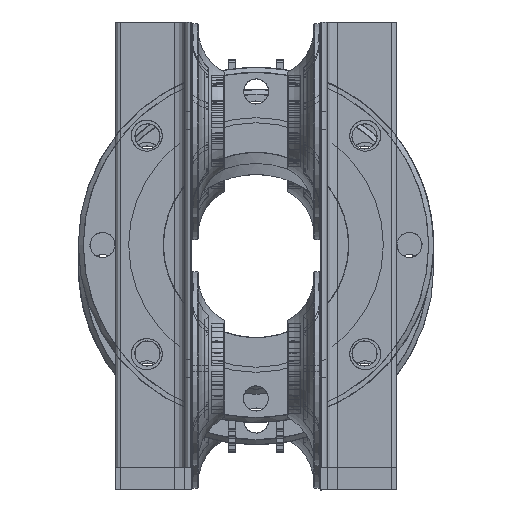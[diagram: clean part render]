
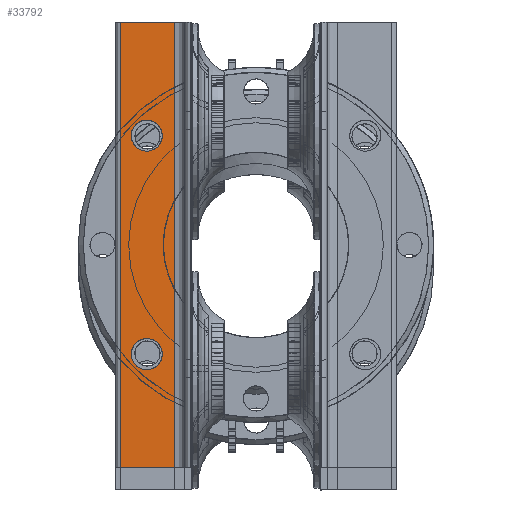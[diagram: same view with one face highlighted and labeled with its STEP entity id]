
A CAD part, top view. The second image highlights one B-rep face of the part: STEP entity #33792.
In plain terms, the highlighted planar face has unit normal (0, 0, 1).
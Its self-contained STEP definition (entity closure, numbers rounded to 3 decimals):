
#2146=FACE_BOUND('',#6216,.T.);
#2147=FACE_BOUND('',#6217,.T.);
#2769=PLANE('',#36290);
#4197=FACE_OUTER_BOUND('',#6215,.T.);
#6215=EDGE_LOOP('',(#25620,#25621,#25622,#25623));
#6216=EDGE_LOOP('',(#25624));
#6217=EDGE_LOOP('',(#25625));
#8195=LINE('',#60239,#10103);
#8196=LINE('',#60243,#10104);
#8197=LINE('',#60245,#10105);
#8198=LINE('',#60246,#10106);
#10103=VECTOR('',#41878,350.);
#10104=VECTOR('',#41883,43.);
#10105=VECTOR('',#41884,350.);
#10106=VECTOR('',#41885,43.);
#11800=CIRCLE('',#36280,12.25);
#11801=CIRCLE('',#36282,12.25);
#14100=VERTEX_POINT('',#60215);
#14101=VERTEX_POINT('',#60218);
#14108=VERTEX_POINT('',#60236);
#14109=VERTEX_POINT('',#60238);
#14110=VERTEX_POINT('',#60242);
#14111=VERTEX_POINT('',#60244);
#18126=EDGE_CURVE('',#14100,#14100,#11800,.T.);
#18127=EDGE_CURVE('',#14101,#14101,#11801,.T.);
#18136=EDGE_CURVE('',#14109,#14108,#8195,.T.);
#18138=EDGE_CURVE('',#14108,#14110,#8196,.T.);
#18139=EDGE_CURVE('',#14111,#14110,#8197,.T.);
#18140=EDGE_CURVE('',#14109,#14111,#8198,.T.);
#25620=ORIENTED_EDGE('',*,*,#18138,.T.);
#25621=ORIENTED_EDGE('',*,*,#18139,.F.);
#25622=ORIENTED_EDGE('',*,*,#18140,.F.);
#25623=ORIENTED_EDGE('',*,*,#18136,.T.);
#25624=ORIENTED_EDGE('',*,*,#18126,.T.);
#25625=ORIENTED_EDGE('',*,*,#18127,.T.);
#33792=ADVANCED_FACE('',(#4197,#2146,#2147),#2769,.T.);
#36280=AXIS2_PLACEMENT_3D('',#60216,#41855,#41856);
#36282=AXIS2_PLACEMENT_3D('',#60219,#41859,#41860);
#36290=AXIS2_PLACEMENT_3D('',#60241,#41881,#41882);
#41855=DIRECTION('center_axis',(0.,0.,
-1.));
#41856=DIRECTION('ref_axis',(-1.,0.,0.));
#41859=DIRECTION('center_axis',(0.,0.,
-1.));
#41860=DIRECTION('ref_axis',(-1.,0.,0.));
#41878=DIRECTION('',(0.,1.,0.));
#41881=DIRECTION('center_axis',(0.,0.,
1.));
#41882=DIRECTION('ref_axis',(0.,1.,0.));
#41883=DIRECTION('',(-1.,0.,0.));
#41884=DIRECTION('',(0.,1.,0.));
#41885=DIRECTION('',(-1.,0.,0.));
#60215=CARTESIAN_POINT('',(-73.6,85.85,10005.));
#60216=CARTESIAN_POINT('Origin',(-85.85,85.85,10005.));
#60218=CARTESIAN_POINT('',(-73.6,-85.85,10005.));
#60219=CARTESIAN_POINT('Origin',(-85.85,-85.85,10005.));
#60236=CARTESIAN_POINT('',(-63.8,175.,10005.));
#60238=CARTESIAN_POINT('',(-63.8,-175.,10005.));
#60239=CARTESIAN_POINT('',(-63.8,-175.,10005.));
#60241=CARTESIAN_POINT('Origin',(-63.8,-175.,10005.));
#60242=CARTESIAN_POINT('',(-106.8,175.,10005.));
#60243=CARTESIAN_POINT('',(-63.8,175.,10005.));
#60244=CARTESIAN_POINT('',(-106.8,-175.,10005.));
#60245=CARTESIAN_POINT('',(-106.8,-175.,10005.));
#60246=CARTESIAN_POINT('',(-63.8,-175.,10005.));
